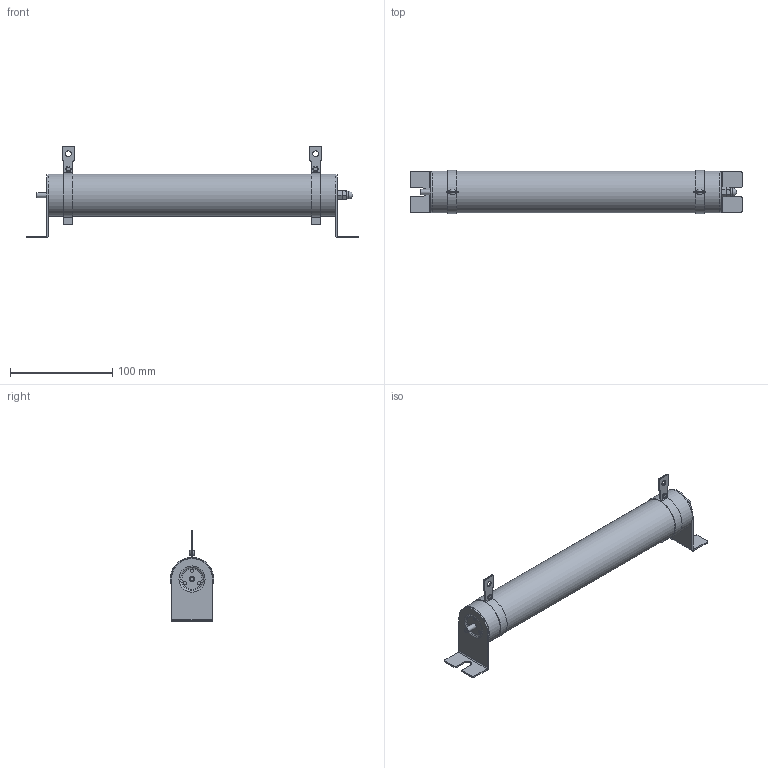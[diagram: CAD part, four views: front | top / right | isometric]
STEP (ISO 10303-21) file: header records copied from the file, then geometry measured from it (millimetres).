
FILE_DESCRIPTION(('STEP AP203'), '1');
FILE_NAME('Ðåçèñòîð òîðìîçíîé _ 400 Âò 80 Îì', '', ('UNSPECIFIED'), ('UNSPECIFIED'), 'C3D Converter', 'C3D Toolkit', '');
FILE_SCHEMA(('CONFIG_CONTROL_DESIGN'));
Length unit declared in the file: millimetre
Products named in the file (16): 400 Вт 80 Ом; РТ 400 Вт 80 Ом; ГОСТ 22032-76; DIN 125 (A); DIN 127 (A); DIN 934; ГОСТ 11860-85; ГОСТ 10299-80
Assembly tree (19 placements, depth 3):
  400 Вт 80 Ом
    РТ 400 Вт 80 Ом
    РТ 400 Вт 80 Ом  x2
    ГОСТ 22032-76  x2
      (unnamed)
    DIN 125 (A)
      (unnamed)
    DIN 127 (A)
      (unnamed)
    DIN 934
      (unnamed)
    ГОСТ 11860-85
      (unnamed)
    РТ 400 Вт 80 Ом  x2
    ГОСТ 10299-80  x2
      (unnamed)
Bounding box: 325 x 42.5 x 90 mm (x, y, z)
Volume: 381863.9 mm3; surface area: 62013.2 mm2
Topology: 15 solids, 15 shells, 283 faces, 620 edges, 377 vertices
Faces by surface type: plane 142, cylinder 104, cone 22, torus 12, sphere 3
Full cylindrical faces by diameter (mm): 3 x6, 3.5 x6, 4.134 x2, 5 x4, 5.3 x1, 5.5 x6, 7.5 x1, 10 x1, 25 x2, 41 x1
Entity records: 6816 total; most frequent: CARTESIAN_POINT 1773, DIRECTION 816, ORIENTED_EDGE 658, AXIS2_PLACEMENT_3D 336, EDGE_CURVE 329, EDGE_LOOP 234, VERTEX_POINT 221, ADVANCED_FACE 171
